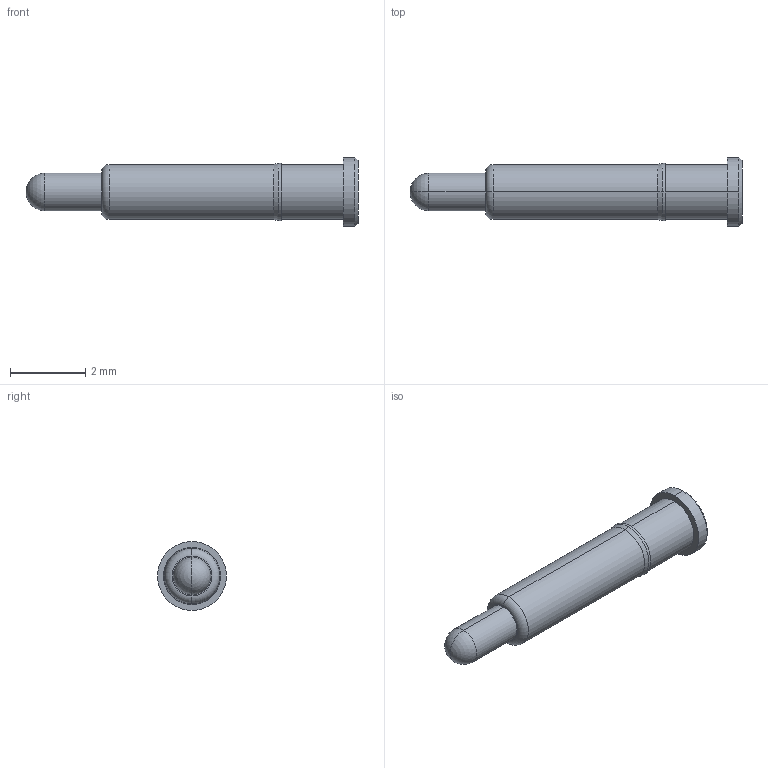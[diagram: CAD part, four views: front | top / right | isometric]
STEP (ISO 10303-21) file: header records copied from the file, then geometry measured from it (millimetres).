
FILE_DESCRIPTION((''),'2;1');
FILE_NAME('NC4118-01PA','2022-07-07T15:41:47',('Administrator'),(''),'CREO PARAMETRIC BY PTC INC, 2018400','CREO PARAMETRIC BY PTC INC, 2018400','');
FILE_SCHEMA(('CONFIG_CONTROL_DESIGN'));
Length unit declared in the file: millimetre
Products named in the file (1): NC4118-01PA
Bounding box: 8.8 x 1.83 x 1.83 mm (x, y, z)
Volume: 13.1 mm3; surface area: 41.9 mm2
Topology: 1 solids, 1 shells, 22 faces, 44 edges, 25 vertices
Faces by surface type: cylinder 10, cone 4, plane 4, torus 2, sphere 2
Entity records: 600 total; most frequent: DIRECTION 114, CARTESIAN_POINT 89, ORIENTED_EDGE 84, AXIS2_PLACEMENT_3D 50, EDGE_CURVE 42, CIRCLE 28, VERTEX_POINT 25, EDGE_LOOP 25
